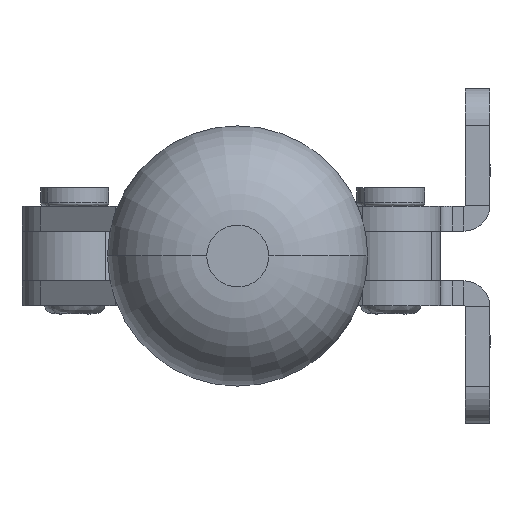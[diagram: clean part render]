
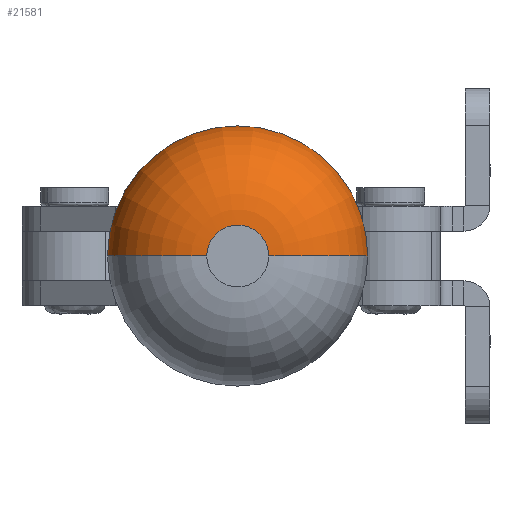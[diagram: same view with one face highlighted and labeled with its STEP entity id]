
A CAD part, left-side view. The second image highlights one B-rep face of the part: STEP entity #21581.
In plain terms, the highlighted toroidal (fillet/blend) face has major radius 2.495 mm and minor radius 8 mm.
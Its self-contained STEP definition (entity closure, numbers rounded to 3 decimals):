
#1429 = CIRCLE ( 'NONE', #14354, 8. ) ;
#1701 = TOROIDAL_SURFACE ( 'NONE', #17869, 2.495, 8. ) ;
#1743 = AXIS2_PLACEMENT_3D ( 'NONE', #5015, #26872, #18180 ) ;
#3589 = CIRCLE ( 'NONE', #1743, 8. ) ;
#3804 = CIRCLE ( 'NONE', #6128, 2.495 ) ;
#3867 = DIRECTION ( 'NONE',  ( 1., 0., 0. ) ) ;
#4875 = VERTEX_POINT ( 'NONE', #11908 ) ;
#5015 = CARTESIAN_POINT ( 'NONE',  ( 2.495, 0., 8. ) ) ;
#5801 = ORIENTED_EDGE ( 'NONE', *, *, #20602, .F. ) ;
#6128 = AXIS2_PLACEMENT_3D ( 'NONE', #24569, #22824, #26746 ) ;
#6387 = VERTEX_POINT ( 'NONE', #18817 ) ;
#6991 = CARTESIAN_POINT ( 'NONE',  ( -2.495, 0., 0. ) ) ;
#8693 = ORIENTED_EDGE ( 'NONE', *, *, #11541, .T. ) ;
#9984 = VERTEX_POINT ( 'NONE', #23178 ) ;
#11541 = EDGE_CURVE ( 'NONE', #9984, #6387, #3589, .T. ) ;
#11627 = CIRCLE ( 'NONE', #16712, 10.491 ) ;
#11908 = CARTESIAN_POINT ( 'NONE',  ( -10.491, 0., 8.251 ) ) ;
#12289 = EDGE_LOOP ( 'NONE', ( #16142, #18829, #8693, #5801 ) ) ;
#13215 = DIRECTION ( 'NONE',  ( 0., 1., 0. ) ) ;
#13599 = DIRECTION ( 'NONE',  ( 1., 0., 0. ) ) ;
#14354 = AXIS2_PLACEMENT_3D ( 'NONE', #24368, #13215, #26394 ) ;
#14863 = FACE_OUTER_BOUND ( 'NONE', #12289, .T. ) ;
#15779 = CARTESIAN_POINT ( 'NONE',  ( 0., 0., 8.251 ) ) ;
#16142 = ORIENTED_EDGE ( 'NONE', *, *, #23671, .F. ) ;
#16712 = AXIS2_PLACEMENT_3D ( 'NONE', #15779, #24615, #13599 ) ;
#17869 = AXIS2_PLACEMENT_3D ( 'NONE', #26837, #28055, #3867 ) ;
#18180 = DIRECTION ( 'NONE',  ( 0., 0., -1. ) ) ;
#18817 = CARTESIAN_POINT ( 'NONE',  ( 10.491, 0., 8.251 ) ) ;
#18829 = ORIENTED_EDGE ( 'NONE', *, *, #21988, .F. ) ;
#20602 = EDGE_CURVE ( 'NONE', #4875, #6387, #11627, .T. ) ;
#21581 = ADVANCED_FACE ( 'NONE', ( #14863 ), #1701, .T. ) ;
#21988 = EDGE_CURVE ( 'NONE', #9984, #22641, #3804, .T. ) ;
#22641 = VERTEX_POINT ( 'NONE', #6991 ) ;
#22824 = DIRECTION ( 'NONE',  ( 0., 0., -1. ) ) ;
#23178 = CARTESIAN_POINT ( 'NONE',  ( 2.495, 0., 0. ) ) ;
#23671 = EDGE_CURVE ( 'NONE', #22641, #4875, #1429, .T. ) ;
#24368 = CARTESIAN_POINT ( 'NONE',  ( -2.495, 0., 8. ) ) ;
#24569 = CARTESIAN_POINT ( 'NONE',  ( 0., 0., 0. ) ) ;
#24615 = DIRECTION ( 'NONE',  ( 0., 0., 1. ) ) ;
#26394 = DIRECTION ( 'NONE',  ( -1., 0., 0. ) ) ;
#26746 = DIRECTION ( 'NONE',  ( 1., 0., 0. ) ) ;
#26837 = CARTESIAN_POINT ( 'NONE',  ( 0., 0., 8. ) ) ;
#26872 = DIRECTION ( 'NONE',  ( 0., -1., 0. ) ) ;
#28055 = DIRECTION ( 'NONE',  ( 0., 0., 1. ) ) ;
